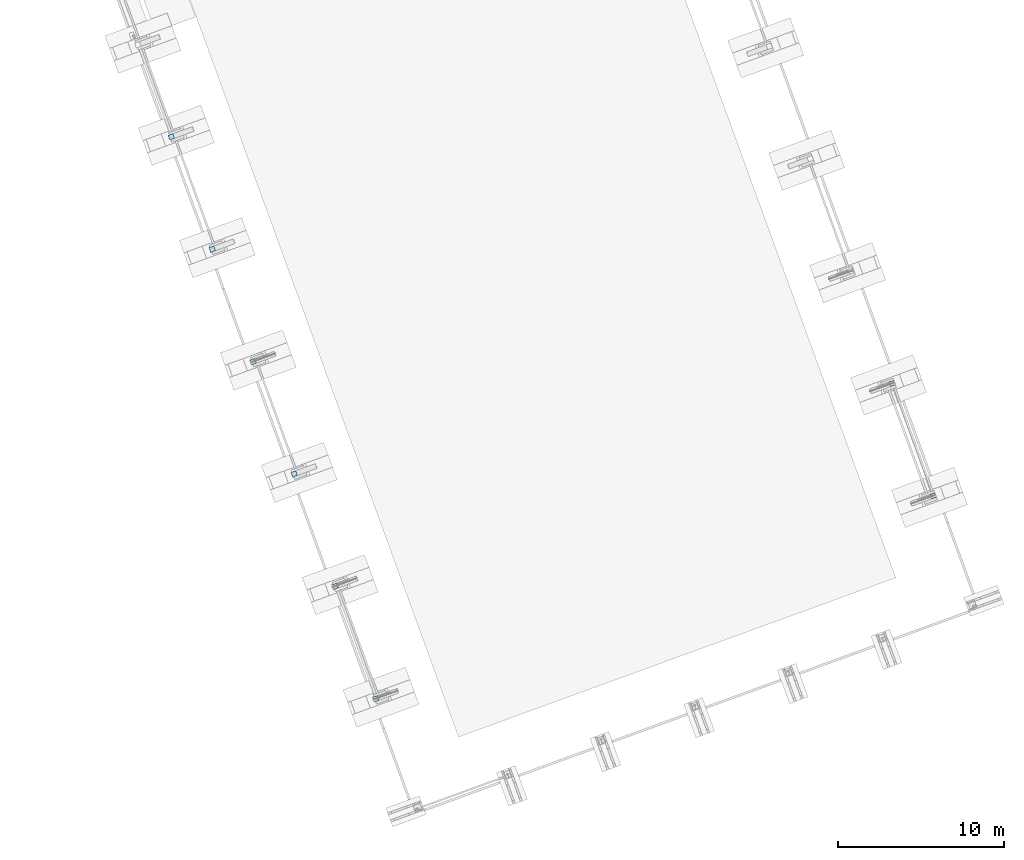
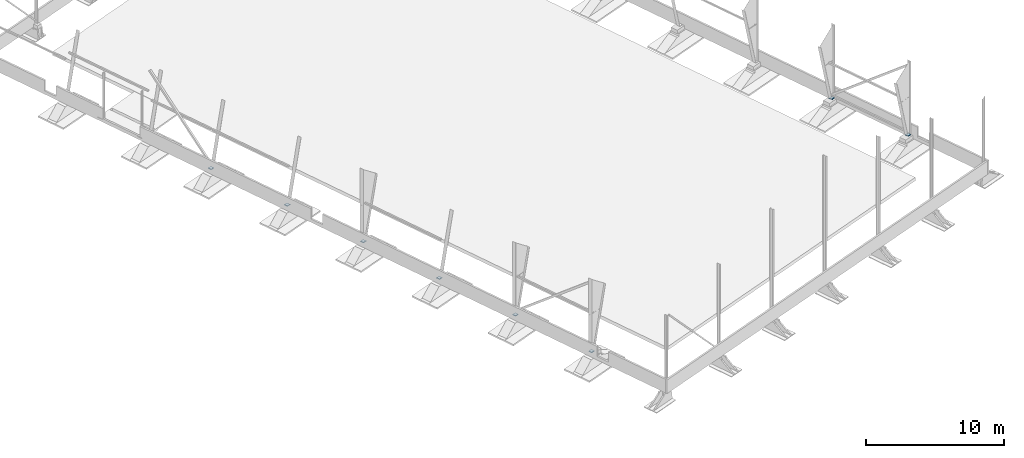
# One storey, part 17 of 20: 8 plates, 8 elements without a shape of their own.
"""IFC4 building model written with IfcOpenShell, lengths in millimetres."""

from ifc_helpers import new_model, si_unit, direction, frame, origin_with_axes, place, context, subcontext, project, spatial, polygons, material, element, aggregate, save


model = new_model("IFC4")

# Units and contexts
model_context = context("Model", 3, precision=0.2, world=frame((203566.813, 116264.779, 0.0), z_axis=(0.0, 0.0, 1.0), x_axis=(1.0, 0.0, 0.0)), true_north=direction((-0.9396138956, -0.3422363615)))
body_context = subcontext(model_context, "Body", "Model", "MODEL_VIEW")
ifc_project = project(units=[si_unit("LENGTHUNIT", "METRE", prefix="MILLI"), si_unit("AREAUNIT", "SQUARE_METRE"), si_unit("VOLUMEUNIT", "CUBIC_METRE"), si_unit("MASSUNIT", "GRAM", prefix="KILO"), si_unit("TIMEUNIT", "SECOND"), si_unit("PLANEANGLEUNIT", "RADIAN"), si_unit("SOLIDANGLEUNIT", "STERADIAN"), si_unit("THERMODYNAMICTEMPERATUREUNIT", "DEGREE_CELSIUS"), si_unit("LUMINOUSINTENSITYUNIT", "LUMEN")], contexts=[model_context])

# Site, building, storey
site_placement = place(None, origin_with_axes())
site = spatial("IfcSite", under=ifc_project, at=site_placement, Name="Nobelprojektet", CompositionType="ELEMENT")
building_placement = place(site_placement, origin_with_axes())
building = spatial("IfcBuilding", under=site, at=building_placement, Name="Hall B", CompositionType="ELEMENT")
storey_placement = place(building_placement, frame((0.0, 0.0, 1000.0), z_axis=(0.0, 0.0, 1.0), x_axis=(1.0, 0.0, 0.0)))
storey = spatial("IfcBuildingStorey", under=building, at=storey_placement, Name="Plan_1", CompositionType="ELEMENT", Elevation=1000.0)

# Assembly, plate
assembly_1_placement = place(storey_placement, frame((148009.52638, 119671.94763, 132189.99959), z_axis=(0.0, 0.0, -1.0), x_axis=(0.9396136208, 0.3422371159, 0.0)))
assembly_1 = element("IfcElementAssembly", 1, at=assembly_1_placement, inside=storey, Name="BEF. STOMME", PredefinedType="NOTDEFINED")
ifc_material = material(Name="S355J2", Category="STEEL")
plate_1_placement = place(assembly_1_placement, frame((304.32129, 0.0, 0.0), z_axis=(-1.0, 0.0, 0.0), x_axis=(0.0, 0.0, 1.0)))
plate_1 = element("IfcPlate", 2, at=plate_1_placement, material=ifc_material, Name="BEF. STOMME", PredefinedType="NOTDEFINED", context=body_context, shape_type="Tessellation", body=[
    polygons([(-10.0, -150.0, 304.32129), (-10.0, 150.0, 304.32129), (-10.0, 150.0, 0.0), (-10.0, -150.0, 0.0), (10.0, 150.0, 304.32129), (10.0, 150.0, 0.0), (10.0, -150.0, 304.32129), (10.0, -150.0, 0.0)], [[[1, 2, 3, 4]], [[2, 5, 6, 3]], [[5, 7, 8, 6]], [[7, 1, 4, 8]], [[6, 8, 4, 3]], [[7, 5, 2, 1]]], closed=True),
])
aggregate(assembly_1, [plate_1])

assembly_2_placement = place(storey_placement, frame((181826.23978, 131989.0682, 132189.9974), z_axis=(0.0, 0.0, 1.0), x_axis=(-0.9396136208, -0.3422371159, 0.0)))
assembly_2 = element("IfcElementAssembly", 3, at=assembly_2_placement, inside=storey, Name="BEF. STOMME", PredefinedType="NOTDEFINED")
plate_2_placement = place(assembly_2_placement, frame((304.32129, 0.0, 0.0), z_axis=(-1.0, 0.0, 0.0), x_axis=(0.0, 0.0, 1.0)))
plate_2 = element("IfcPlate", 4, at=plate_2_placement, material=ifc_material, Name="BEF. STOMME", PredefinedType="NOTDEFINED", context=body_context, shape_type="Tessellation", body=[
    polygons([(-10.0, -150.0, 304.32129), (-10.0, 150.0, 304.32129), (-10.0, 150.0, 0.0), (-10.0, -150.0, 0.0), (10.0, 150.0, 304.32129), (10.0, 150.0, 0.0), (10.0, -150.0, 304.32129), (10.0, -150.0, 0.0)], [[[1, 2, 3, 4]], [[2, 5, 6, 3]], [[5, 7, 8, 6]], [[7, 1, 4, 8]], [[6, 8, 4, 3]], [[7, 5, 2, 1]]], closed=True),
])
aggregate(assembly_2, [plate_2])

assembly_3_placement = place(storey_placement, frame((145545.41901, 126437.16519, 132189.99959), z_axis=(0.0, 0.0, -1.0), x_axis=(0.9396136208, 0.3422371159, 0.0)))
assembly_3 = element("IfcElementAssembly", 5, at=assembly_3_placement, inside=storey, Name="BEF. STOMME", PredefinedType="NOTDEFINED")
plate_3_placement = place(assembly_3_placement, frame((304.32129, 0.0, 0.0), z_axis=(-1.0, 0.0, 0.0), x_axis=(0.0, 0.0, 1.0)))
plate_3 = element("IfcPlate", 6, at=plate_3_placement, material=ifc_material, Name="BEF. STOMME", PredefinedType="NOTDEFINED", context=body_context, shape_type="Tessellation", body=[
    polygons([(-10.0, -150.0, 304.32129), (-10.0, 150.0, 304.32129), (-10.0, 150.0, 0.0), (-10.0, -150.0, 0.0), (10.0, 150.0, 304.32129), (10.0, 150.0, 0.0), (10.0, -150.0, 304.32129), (10.0, -150.0, 0.0)], [[[1, 2, 3, 4]], [[2, 5, 6, 3]], [[5, 7, 8, 6]], [[7, 1, 4, 8]], [[6, 8, 4, 3]], [[7, 5, 2, 1]]], closed=True),
])
aggregate(assembly_3, [plate_3])

assembly_4_placement = place(storey_placement, frame((179362.1325, 138754.28652, 132189.9974), z_axis=(0.0, 0.0, 1.0), x_axis=(-0.9396136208, -0.3422371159, 0.0)))
assembly_4 = element("IfcElementAssembly", 7, at=assembly_4_placement, inside=storey, Name="BEF. STOMME", PredefinedType="NOTDEFINED")
plate_4_placement = place(assembly_4_placement, frame((304.32129, 0.0, 0.0), z_axis=(-1.0, 0.0, 0.0), x_axis=(0.0, 0.0, 1.0)))
plate_4 = element("IfcPlate", 8, at=plate_4_placement, material=ifc_material, Name="BEF. STOMME", PredefinedType="NOTDEFINED", context=body_context, shape_type="Tessellation", body=[
    polygons([(-10.0, -150.0, 304.32129), (-10.0, 150.0, 304.32129), (-10.0, 150.0, 0.0), (-10.0, -150.0, 0.0), (10.0, 150.0, 304.32129), (10.0, 150.0, 0.0), (10.0, -150.0, 304.32129), (10.0, -150.0, 0.0)], [[[1, 2, 3, 4]], [[2, 5, 6, 3]], [[5, 7, 8, 6]], [[7, 1, 4, 8]], [[6, 8, 4, 3]], [[7, 5, 2, 1]]], closed=True),
])
aggregate(assembly_4, [plate_4])

assembly_5_placement = place(storey_placement, frame((140617.20412, 139967.60179, 132189.99959), z_axis=(0.0, 0.0, -1.0), x_axis=(0.9396136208, 0.3422371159, 0.0)))
assembly_5 = element("IfcElementAssembly", 9, at=assembly_5_placement, inside=storey, Name="BEF. STOMME", PredefinedType="NOTDEFINED")
plate_5_placement = place(assembly_5_placement, frame((304.32129, 0.0, 0.0), z_axis=(-1.0, 0.0, 0.0), x_axis=(0.0, 0.0, 1.0)))
plate_5 = element("IfcPlate", 10, at=plate_5_placement, material=ifc_material, Name="BEF. STOMME", PredefinedType="NOTDEFINED", context=body_context, shape_type="Tessellation", body=[
    polygons([(-10.0, -150.0, 304.32129), (-10.0, 150.0, 304.32129), (-10.0, 150.0, 0.0), (-10.0, -150.0, 0.0), (10.0, 150.0, 304.32129), (10.0, 150.0, 0.0), (10.0, -150.0, 304.32129), (10.0, -150.0, 0.0)], [[[1, 2, 3, 4]], [[2, 5, 6, 3]], [[5, 7, 8, 6]], [[7, 1, 4, 8]], [[6, 8, 4, 3]], [[7, 5, 2, 1]]], closed=True),
])
aggregate(assembly_5, [plate_5])

assembly_6_placement = place(storey_placement, frame((143082.24773, 133202.7241, 132189.99959), z_axis=(0.0, 0.0, -1.0), x_axis=(0.9396136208, 0.3422371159, 0.0)))
assembly_6 = element("IfcElementAssembly", 11, at=assembly_6_placement, inside=storey, Name="BEF. STOMME", PredefinedType="NOTDEFINED")
plate_6_placement = place(assembly_6_placement, frame((304.32129, 0.0, 0.0), z_axis=(-1.0, 0.0, 0.0), x_axis=(0.0, 0.0, 1.0)))
plate_6 = element("IfcPlate", 12, at=plate_6_placement, material=ifc_material, Name="BEF. STOMME", PredefinedType="NOTDEFINED", context=body_context, shape_type="Tessellation", body=[
    polygons([(-10.0, -150.0, 304.32129), (-10.0, 150.0, 304.32129), (-10.0, 150.0, 0.0), (-10.0, -150.0, 0.0), (10.0, 150.0, 304.32129), (10.0, 150.0, 0.0), (10.0, -150.0, 304.32129), (10.0, -150.0, 0.0)], [[[1, 2, 3, 4]], [[2, 5, 6, 3]], [[5, 7, 8, 6]], [[7, 1, 4, 8]], [[6, 8, 4, 3]], [[7, 5, 2, 1]]], closed=True),
])
aggregate(assembly_6, [plate_6])

assembly_7_placement = place(storey_placement, frame((138153.09689, 146732.81986, 132189.99959), z_axis=(0.0, 0.0, -1.0), x_axis=(0.9396136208, 0.3422371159, 0.0)))
assembly_7 = element("IfcElementAssembly", 13, at=assembly_7_placement, inside=storey, Name="BEF. STOMME", PredefinedType="NOTDEFINED")
plate_7_placement = place(assembly_7_placement, frame((304.32129, 0.0, 0.0), z_axis=(-1.0, 0.0, 0.0), x_axis=(0.0, 0.0, 1.0)))
plate_7 = element("IfcPlate", 14, at=plate_7_placement, material=ifc_material, Name="BEF. STOMME", PredefinedType="NOTDEFINED", context=body_context, shape_type="Tessellation", body=[
    polygons([(-10.0, -150.0, 304.32129), (-10.0, 150.0, 304.32129), (-10.0, 150.0, 0.0), (-10.0, -150.0, 0.0), (10.0, 150.0, 304.32129), (10.0, 150.0, 0.0), (10.0, -150.0, 304.32129), (10.0, -150.0, 0.0)], [[[1, 2, 3, 4]], [[2, 5, 6, 3]], [[5, 7, 8, 6]], [[7, 1, 4, 8]], [[6, 8, 4, 3]], [[7, 5, 2, 1]]], closed=True),
])
aggregate(assembly_7, [plate_7])

assembly_8_placement = place(storey_placement, frame((135688.98965, 153498.03793, 132189.99959), z_axis=(0.0, 0.0, -1.0), x_axis=(0.9396136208, 0.3422371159, 0.0)))
assembly_8 = element("IfcElementAssembly", 15, at=assembly_8_placement, inside=storey, Name="BEF. STOMME", PredefinedType="NOTDEFINED")
plate_8_placement = place(assembly_8_placement, frame((304.32129, 0.0, 0.0), z_axis=(-1.0, 0.0, 0.0), x_axis=(0.0, 0.0, 1.0)))
plate_8 = element("IfcPlate", 16, at=plate_8_placement, material=ifc_material, Name="BEF. STOMME", PredefinedType="NOTDEFINED", context=body_context, shape_type="Tessellation", body=[
    polygons([(-10.0, -150.0, 304.32129), (-10.0, 150.0, 304.32129), (-10.0, 150.0, 0.0), (-10.0, -150.0, 0.0), (10.0, 150.0, 304.32129), (10.0, 150.0, 0.0), (10.0, -150.0, 304.32129), (10.0, -150.0, 0.0)], [[[1, 2, 3, 4]], [[2, 5, 6, 3]], [[5, 7, 8, 6]], [[7, 1, 4, 8]], [[6, 8, 4, 3]], [[7, 5, 2, 1]]], closed=True),
])
aggregate(assembly_8, [plate_8])

save(model, "model.ifc")
